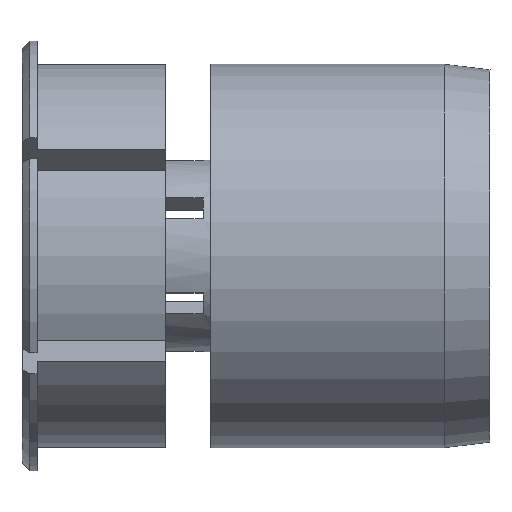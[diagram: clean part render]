
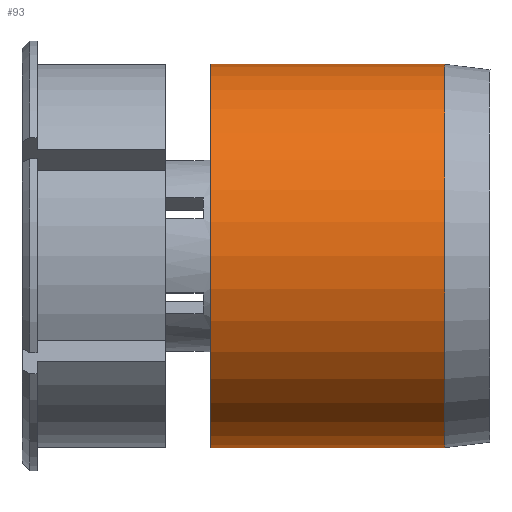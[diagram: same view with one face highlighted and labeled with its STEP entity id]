
A CAD part, top view. The second image highlights one B-rep face of the part: STEP entity #93.
In plain terms, the highlighted cylindrical face has radius 12.7 mm (diameter 25.4 mm), a partial arc.
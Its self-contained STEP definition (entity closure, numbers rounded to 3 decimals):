
#93=ADVANCED_FACE('',(#241),#242,.T.);
#241=FACE_OUTER_BOUND('',#443,.T.);
#242=CYLINDRICAL_SURFACE('',#444,12.7);
#443=EDGE_LOOP('',(#661,#662,#663,#664));
#444=AXIS2_PLACEMENT_3D('',#665,#666,#667);
#661=ORIENTED_EDGE('',*,*,#1280,.F.);
#662=ORIENTED_EDGE('',*,*,#1281,.T.);
#663=ORIENTED_EDGE('',*,*,#1282,.F.);
#664=ORIENTED_EDGE('',*,*,#1276,.F.);
#665=CARTESIAN_POINT('',(20.25,0.,0.0));
#666=DIRECTION('',(1.0,0.,0.0));
#667=DIRECTION('',(0.,1.0,0.0));
#1276=EDGE_CURVE('',#1540,#1543,#1544,.T.);
#1280=EDGE_CURVE('',#1549,#1540,#1550,.T.);
#1281=EDGE_CURVE('',#1549,#1551,#1552,.T.);
#1282=EDGE_CURVE('',#1543,#1551,#1553,.T.);
#1540=VERTEX_POINT('',#1919);
#1543=VERTEX_POINT('',#1923);
#1544=CIRCLE('',#1924,12.7);
#1549=VERTEX_POINT('',#1930);
#1550=LINE('',#1931,#1932);
#1551=VERTEX_POINT('',#1933);
#1552=CIRCLE('',#1934,12.7);
#1553=LINE('',#1935,#1936);
#1919=CARTESIAN_POINT('',(28.,12.7,0.0));
#1923=CARTESIAN_POINT('',(28.,-12.7,0.));
#1924=AXIS2_PLACEMENT_3D('',#2493,#2494,#2495);
#1930=CARTESIAN_POINT('',(12.5,12.7,0.0));
#1931=CARTESIAN_POINT('',(20.25,12.7,0.));
#1932=VECTOR('',#2500,1.0);
#1933=CARTESIAN_POINT('',(12.5,-12.7,0.));
#1934=AXIS2_PLACEMENT_3D('',#2501,#2502,#2503);
#1935=CARTESIAN_POINT('',(20.25,-12.7,0.));
#1936=VECTOR('',#2504,1.0);
#2493=CARTESIAN_POINT('',(28.,0.,0.0));
#2494=DIRECTION('',(1.0,0.,0.0));
#2495=DIRECTION('',(0.,1.0,0.0));
#2500=DIRECTION('',(1.0,0.,0.0));
#2501=CARTESIAN_POINT('',(12.5,0.,0.0));
#2502=DIRECTION('',(1.0,0.,0.0));
#2503=DIRECTION('',(0.,1.0,0.0));
#2504=DIRECTION('',(-1.0,0.,-0.0));
